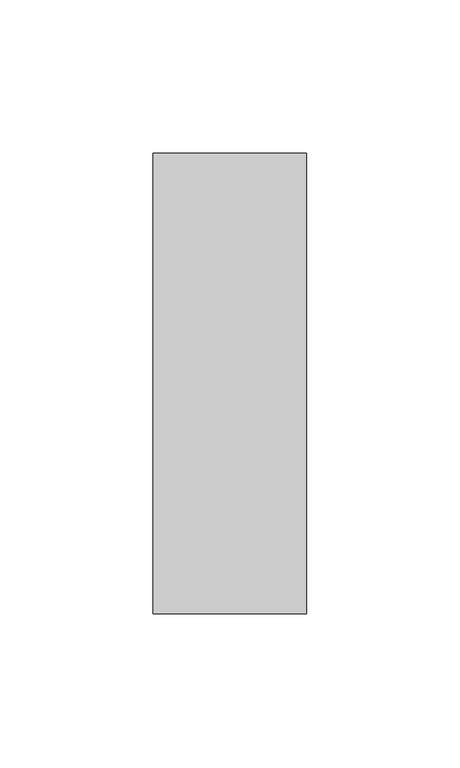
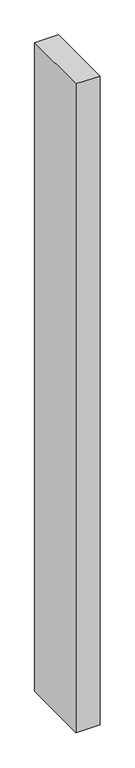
"""IFC4 building model written with IfcOpenShell, lengths in millimetres: member geometry, Прямоугольный импост : 50 x 150 мм."""

from ifc_helpers import new_model, si_unit, frame, origin, place, context, project, spatial, polyline, outline, extrude, source, transform, mapped, element, save


def member_12755d2f(model_context):
    return source(origin(), model_context, "Body", "SweptSolid", [
        extrude(outline(polyline([(25.0, 75.0), (25.0, -75.0), (-25.0, -75.0), (-25.0, 75.0), (25.0, 75.0)])), frame((0.0, 0.0, -1435.6134715), z_axis=(0.0, 0.0, 1.0), x_axis=(1.0, 0.0, 0.0)), (0.0, 0.0, 1.0), 1435.6134715),
    ])


if __name__ == "__main__":
    model = new_model("IFC4")
    model_context = context("Model", 3, world=origin())
    ifc_project = project(units=[si_unit("LENGTHUNIT", "METRE", prefix="MILLI")], contexts=[model_context])
    site = spatial("IfcSite", under=ifc_project)
    building = spatial("IfcBuilding", under=site)
    placement = place(None, origin())
    member_shape = member_12755d2f(model_context)
    element("IfcMember", 1, ObjectType="Прямоугольный импост : 50 x 150 мм", at=placement, inside=building, context=model_context, shape_type="MappedRepresentation", body=[
        mapped(member_shape, transform((0.0, 0.0, 0.0), x_axis=(1.0, 0.0, 0.0), y_axis=(0.0, 1.0, 0.0), z_axis=(0.0, 0.0, 1.0))),
    ])
    save(model, "model.ifc")
